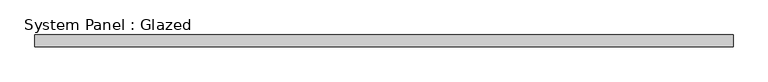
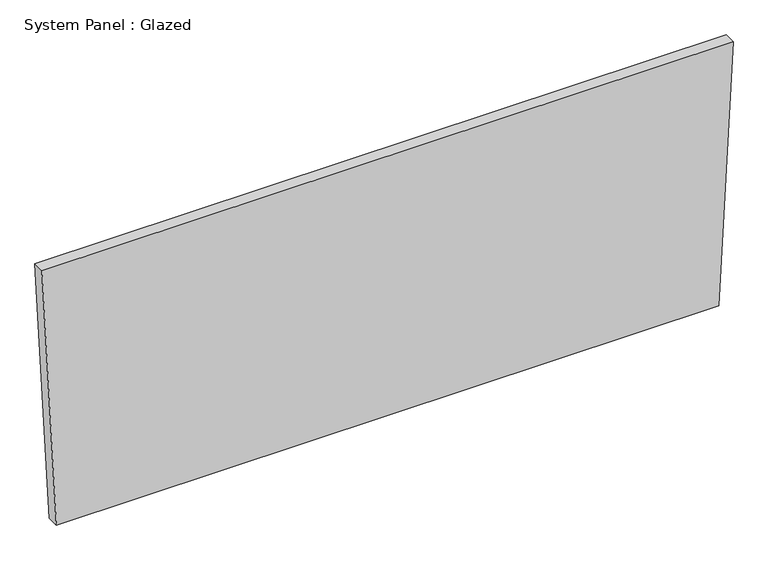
"""IFC4 building model written with IfcOpenShell, lengths in millimetres: plate geometry, System Panel : Glazed."""

from ifc_helpers import new_model, si_unit, frame, origin, place, context, project, spatial, polyline, outline, extrude, source, transform, mapped, element, save


def system_panel_glazed_42d38d67(model_context):
    return source(origin(), model_context, "Body", "SweptSolid", [
        extrude(outline(polyline([(0.0, -705.2085464), (0.0, 705.2085464), (583.3538533, 735.9765908), (583.3538533, -735.9765908), (0.0, -705.2085464)])), frame((0.0, -44.45, 0.0), z_axis=(0.0, 1.0, 0.0), x_axis=(0.0, 0.0, 1.0)), (0.0, 0.0, 1.0), 25.4),
    ])


if __name__ == "__main__":
    model = new_model("IFC4")
    model_context = context("Model", 3, world=origin())
    ifc_project = project(units=[si_unit("LENGTHUNIT", "METRE", prefix="MILLI")], contexts=[model_context])
    site = spatial("IfcSite", under=ifc_project)
    building = spatial("IfcBuilding", under=site)
    placement = place(None, origin())
    system_panel_glazed_shape = system_panel_glazed_42d38d67(model_context)
    element("IfcPlate", 1, ObjectType="System Panel : Glazed", at=placement, inside=building, context=model_context, shape_type="MappedRepresentation", body=[
        mapped(system_panel_glazed_shape, transform((0.0, 0.0, 0.0), x_axis=(1.0, 0.0, 0.0), y_axis=(0.0, 1.0, 0.0), z_axis=(0.0, 0.0, 1.0))),
    ])
    save(model, "model.ifc")
